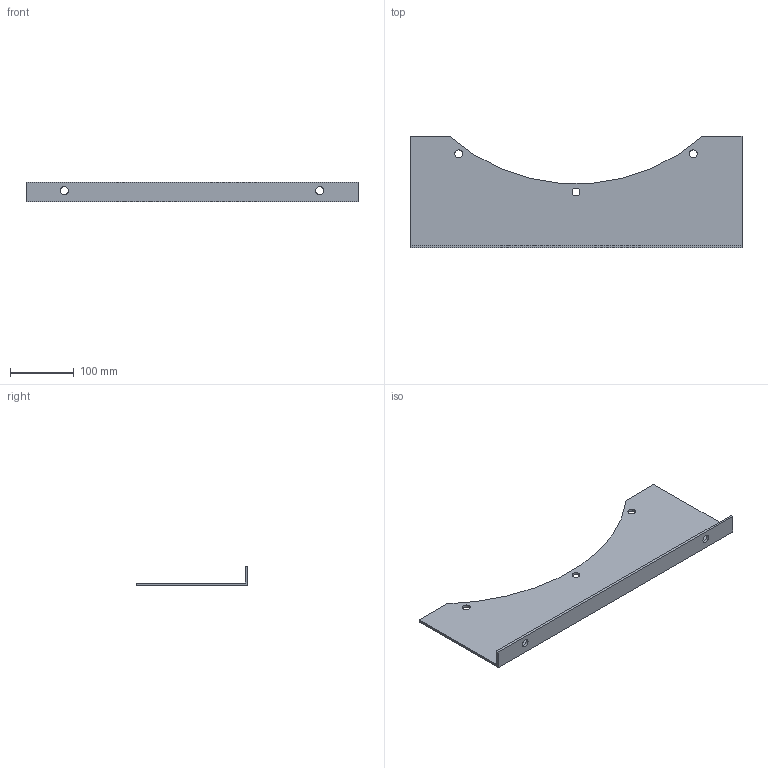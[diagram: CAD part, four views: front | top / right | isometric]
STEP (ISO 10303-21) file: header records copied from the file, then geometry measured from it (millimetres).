
FILE_DESCRIPTION(('STEP AP214'),'1');
FILE_NAME('accessory_5138877500.stp','2017-10-09T07:39:30',('TraceParts'),('TraceParts S.A.'),'Spatial InterOp 3D',' ',' ');
FILE_SCHEMA(('automotive_design'));
Length unit declared in the file: millimetre
Products named in the file (1): accessory_5138877500
Bounding box: 520 x 175 x 30 mm (x, y, z)
Volume: 334029.5 mm3; surface area: 173715.3 mm2
Topology: 1 solids, 1 shells, 20 faces, 54 edges, 36 vertices
Faces by surface type: cylinder 11, plane 9
Entity records: 836 total; most frequent: DIRECTION 118, CARTESIAN_POINT 111, ORIENTED_EDGE 108, EDGE_CURVE 54, AXIS2_PLACEMENT_3D 43, VERTEX_POINT 36, LINE 32, VECTOR 32
